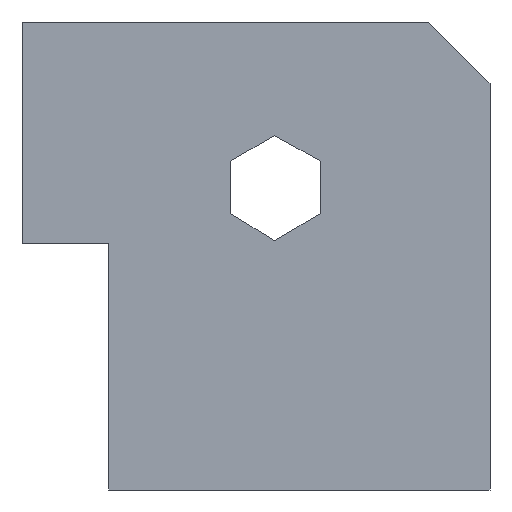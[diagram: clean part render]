
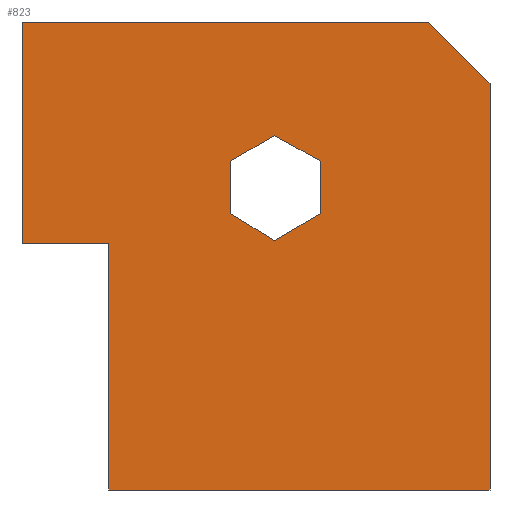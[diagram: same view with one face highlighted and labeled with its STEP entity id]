
A CAD part, left-side view. The second image highlights one B-rep face of the part: STEP entity #823.
In plain terms, the highlighted planar face has unit normal (-1, 0, 0).
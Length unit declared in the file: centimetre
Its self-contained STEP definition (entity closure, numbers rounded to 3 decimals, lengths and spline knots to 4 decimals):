
#45 = DIRECTION ( 'NONE',  ( 0., 0., -1. ) ) ;
#65 = PLANE ( 'NONE',  #531 ) ;
#69 = DIRECTION ( 'NONE',  ( 0., 0., -1. ) ) ;
#71 = ORIENTED_EDGE ( 'NONE', *, *, #510, .T. ) ;
#87 = LINE ( 'NONE', #292, #511 ) ;
#90 = VERTEX_POINT ( 'NONE', #482 ) ;
#92 = ORIENTED_EDGE ( 'NONE', *, *, #432, .T. ) ;
#94 = CARTESIAN_POINT ( 'NONE',  ( 0., 1000., 526.1283 ) ) ;
#103 = VECTOR ( 'NONE', #717, 100. ) ;
#114 = VERTEX_POINT ( 'NONE', #750 ) ;
#115 = LINE ( 'NONE', #489, #724 ) ;
#116 = LINE ( 'NONE', #1167, #261 ) ;
#155 = EDGE_LOOP ( 'NONE', ( #159, #177, #92, #959, #71, #364, #700 ) ) ;
#159 = ORIENTED_EDGE ( 'NONE', *, *, #322, .F. ) ;
#174 = DIRECTION ( 'NONE',  ( 0., 0., -1. ) ) ;
#177 = ORIENTED_EDGE ( 'NONE', *, *, #568, .T. ) ;
#178 = ORIENTED_EDGE ( 'NONE', *, *, #1140, .F. ) ;
#204 = VECTOR ( 'NONE', #174, 100. ) ;
#217 = LINE ( 'NONE', #287, #914 ) ;
#235 = EDGE_CURVE ( 'NONE', #114, #90, #889, .T. ) ;
#247 = EDGE_CURVE ( 'NONE', #254, #1005, #775, .T. ) ;
#251 = CARTESIAN_POINT ( 'NONE',  ( 0., 460.5721, 757.1855 ) ) ;
#254 = VERTEX_POINT ( 'NONE', #871 ) ;
#256 = LINE ( 'NONE', #251, #1011 ) ;
#261 = VECTOR ( 'NONE', #45, 100. ) ;
#287 = CARTESIAN_POINT ( 'NONE',  ( 0., 132.084, 1000. ) ) ;
#292 = CARTESIAN_POINT ( 'NONE',  ( 0., 1000., 0. ) ) ;
#298 = VECTOR ( 'NONE', #1184, 100. ) ;
#322 = EDGE_CURVE ( 'NONE', #524, #558, #712, .T. ) ;
#324 = ORIENTED_EDGE ( 'NONE', *, *, #732, .F. ) ;
#331 = ORIENTED_EDGE ( 'NONE', *, *, #371, .F. ) ;
#351 = DIRECTION ( 'NONE',  ( 1., 0., 0. ) ) ;
#364 = ORIENTED_EDGE ( 'NONE', *, *, #235, .F. ) ;
#371 = EDGE_CURVE ( 'NONE', #769, #1083, #256, .T. ) ;
#383 = CARTESIAN_POINT ( 'NONE',  ( 0., 362.3193, 702.9458 ) ) ;
#395 = EDGE_CURVE ( 'NONE', #1005, #1106, #621, .T. ) ;
#399 = CARTESIAN_POINT ( 'NONE',  ( 0., 814.2533, 526.1283 ) ) ;
#407 = LINE ( 'NONE', #399, #204 ) ;
#409 = CARTESIAN_POINT ( 'NONE',  ( 0., 1000., 1000. ) ) ;
#410 = DIRECTION ( 'NONE',  ( 0., 0.875, 0.483 ) ) ;
#432 = EDGE_CURVE ( 'NONE', #716, #1144, #87, .T. ) ;
#441 = ORIENTED_EDGE ( 'NONE', *, *, #610, .F. ) ;
#447 = CARTESIAN_POINT ( 'NONE',  ( 0., 0., 1000. ) ) ;
#481 = VECTOR ( 'NONE', #683, 100. ) ;
#482 = CARTESIAN_POINT ( 'NONE',  ( 0., 132.084, 1000. ) ) ;
#487 = VERTEX_POINT ( 'NONE', #383 ) ;
#489 = CARTESIAN_POINT ( 'NONE',  ( 0., 362.3193, 590.7366 ) ) ;
#500 = LINE ( 'NONE', #864, #1031 ) ;
#506 = CARTESIAN_POINT ( 'NONE',  ( 0., 362.3193, 590.7366 ) ) ;
#507 = DIRECTION ( 'NONE',  ( 0., -0.851, -0.525 ) ) ;
#508 = CARTESIAN_POINT ( 'NONE',  ( 0., 814.2533, 0. ) ) ;
#510 = EDGE_CURVE ( 'NONE', #658, #90, #217, .T. ) ;
#511 = VECTOR ( 'NONE', #748, 100. ) ;
#512 = CARTESIAN_POINT ( 'NONE',  ( 0., 554.5179, 590.7366 ) ) ;
#518 = FACE_OUTER_BOUND ( 'NONE', #155, .T. ) ;
#524 = VERTEX_POINT ( 'NONE', #830 ) ;
#531 = AXIS2_PLACEMENT_3D ( 'NONE', #535, #351, #69 ) ;
#535 = CARTESIAN_POINT ( 'NONE',  ( 0., 1000., 1000. ) ) ;
#558 = VERTEX_POINT ( 'NONE', #94 ) ;
#568 = EDGE_CURVE ( 'NONE', #524, #716, #407, .T. ) ;
#578 = EDGE_CURVE ( 'NONE', #114, #558, #814, .T. ) ;
#608 = CARTESIAN_POINT ( 'NONE',  ( 0., 0., 0. ) ) ;
#610 = EDGE_CURVE ( 'NONE', #1106, #487, #115, .T. ) ;
#621 = LINE ( 'NONE', #1174, #103 ) ;
#648 = ORIENTED_EDGE ( 'NONE', *, *, #395, .F. ) ;
#658 = VERTEX_POINT ( 'NONE', #1101 ) ;
#683 = DIRECTION ( 'NONE',  ( 0., -1., 0. ) ) ;
#700 = ORIENTED_EDGE ( 'NONE', *, *, #578, .T. ) ;
#712 = LINE ( 'NONE', #804, #876 ) ;
#713 = DIRECTION ( 'NONE',  ( 0., 0., -1. ) ) ;
#716 = VERTEX_POINT ( 'NONE', #508 ) ;
#717 = DIRECTION ( 'NONE',  ( 0., -0.861, 0.508 ) ) ;
#718 = CARTESIAN_POINT ( 'NONE',  ( 0., 460.5721, 757.1855 ) ) ;
#724 = VECTOR ( 'NONE', #852, 100. ) ;
#732 = EDGE_CURVE ( 'NONE', #487, #769, #500, .T. ) ;
#748 = DIRECTION ( 'NONE',  ( 0., -1., 0. ) ) ;
#750 = CARTESIAN_POINT ( 'NONE',  ( 0., 1000., 1000. ) ) ;
#754 = DIRECTION ( 'NONE',  ( 0., 0.707, 0.707 ) ) ;
#769 = VERTEX_POINT ( 'NONE', #718 ) ;
#775 = LINE ( 'NONE', #512, #974 ) ;
#796 = LINE ( 'NONE', #447, #839 ) ;
#804 = CARTESIAN_POINT ( 'NONE',  ( 0., 814.2533, 526.1283 ) ) ;
#806 = ORIENTED_EDGE ( 'NONE', *, *, #247, .F. ) ;
#814 = LINE ( 'NONE', #906, #298 ) ;
#823 = ADVANCED_FACE ( 'NONE', ( #1003, #518 ), #65, .F. ) ;
#824 = CARTESIAN_POINT ( 'NONE',  ( 0., 460.5721, 532.767 ) ) ;
#830 = CARTESIAN_POINT ( 'NONE',  ( 0., 814.2533, 526.1283 ) ) ;
#839 = VECTOR ( 'NONE', #713, 100. ) ;
#847 = EDGE_CURVE ( 'NONE', #658, #1144, #796, .T. ) ;
#852 = DIRECTION ( 'NONE',  ( 0., 0., 1. ) ) ;
#864 = CARTESIAN_POINT ( 'NONE',  ( 0., 362.3193, 702.9458 ) ) ;
#866 = CARTESIAN_POINT ( 'NONE',  ( 0., 554.5179, 702.9458 ) ) ;
#871 = CARTESIAN_POINT ( 'NONE',  ( 0., 554.5179, 590.7366 ) ) ;
#876 = VECTOR ( 'NONE', #1085, 100. ) ;
#889 = LINE ( 'NONE', #409, #481 ) ;
#906 = CARTESIAN_POINT ( 'NONE',  ( 0., 1000., 1000. ) ) ;
#914 = VECTOR ( 'NONE', #754, 100. ) ;
#959 = ORIENTED_EDGE ( 'NONE', *, *, #847, .F. ) ;
#974 = VECTOR ( 'NONE', #507, 100. ) ;
#1003 = FACE_BOUND ( 'NONE', #1114, .T. ) ;
#1005 = VERTEX_POINT ( 'NONE', #824 ) ;
#1011 = VECTOR ( 'NONE', #1098, 100. ) ;
#1031 = VECTOR ( 'NONE', #410, 100. ) ;
#1083 = VERTEX_POINT ( 'NONE', #866 ) ;
#1085 = DIRECTION ( 'NONE',  ( 0., 1., 0. ) ) ;
#1098 = DIRECTION ( 'NONE',  ( 0., 0.866, -0.5 ) ) ;
#1101 = CARTESIAN_POINT ( 'NONE',  ( 0., 0., 867.916 ) ) ;
#1106 = VERTEX_POINT ( 'NONE', #506 ) ;
#1114 = EDGE_LOOP ( 'NONE', ( #178, #331, #324, #441, #648, #806 ) ) ;
#1140 = EDGE_CURVE ( 'NONE', #1083, #254, #116, .T. ) ;
#1144 = VERTEX_POINT ( 'NONE', #608 ) ;
#1167 = CARTESIAN_POINT ( 'NONE',  ( 0., 554.5179, 702.9458 ) ) ;
#1174 = CARTESIAN_POINT ( 'NONE',  ( 0., 460.5721, 532.767 ) ) ;
#1184 = DIRECTION ( 'NONE',  ( 0., 0., -1. ) ) ;
